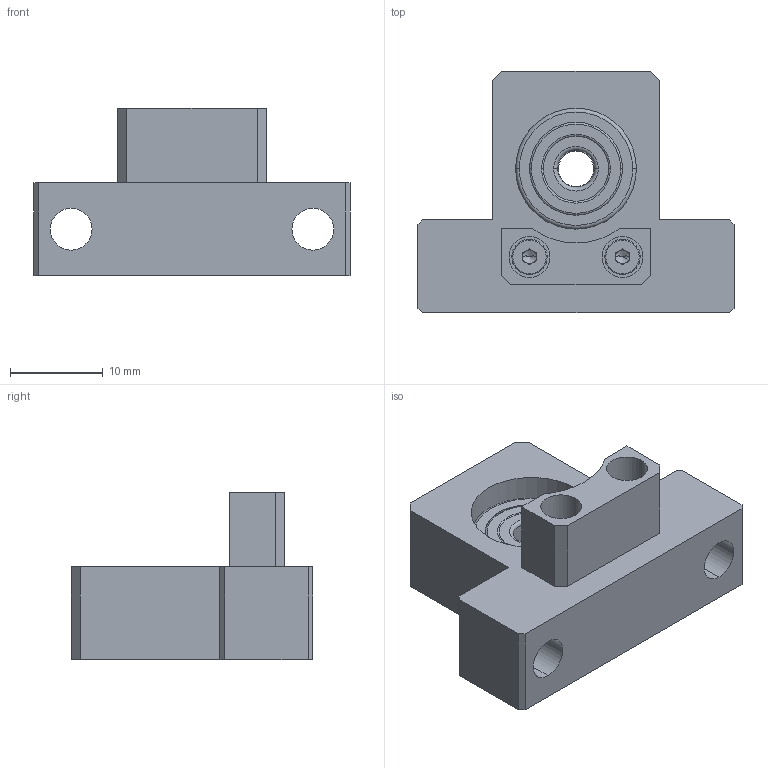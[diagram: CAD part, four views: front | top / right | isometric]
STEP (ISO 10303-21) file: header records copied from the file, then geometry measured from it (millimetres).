
FILE_DESCRIPTION (( 'STEP AP214' ), '1' );
FILE_NAME ('S-SBU-4.20-25.STEP', '2026-03-26T04:15:29', ( '决扁浅何厘' ), ( '' ), 'SwSTEP 2.0', 'SolidWorks 2024', '' );
FILE_SCHEMA (( 'AUTOMOTIVE_DESIGN' ));
Length unit declared in the file: millimetre
Products named in the file (6): socket head cap screw_ks_KS 1003 - M2 x 5 x 5-N; S-SBU-4.20-25 HOUSING; STWN4; deep groove ball bearing (series 62)_ks_KS B 2023 S62 - 624-S-ZZ; 4-5 DAMPER; S-SBU-4.20-25
Assembly tree (6 placements, depth 2):
  S-SBU-4.20-25
    S-SBU-4.20-25 HOUSING
    deep groove ball bearing (series 62)_ks_KS B 2023 S62 - 624-S-ZZ
    4-5 DAMPER
    socket head cap screw_ks_KS 1003 - M2 x 5 x 5-N  x2
    STWN4
Bounding box: 34 x 26 x 18 mm (x, y, z)
Volume: 5699.5 mm3; surface area: 4536.9 mm2
Topology: 6 solids, 8 shells, 187 faces, 431 edges, 262 vertices
Faces by surface type: plane 79, cylinder 64, torus 32, cone 12
Entity records: 4652 total; most frequent: DIRECTION 859, CARTESIAN_POINT 749, ORIENTED_EDGE 718, EDGE_CURVE 359, AXIS2_PLACEMENT_3D 335, VERTEX_POINT 225, LINE 189, VECTOR 189
